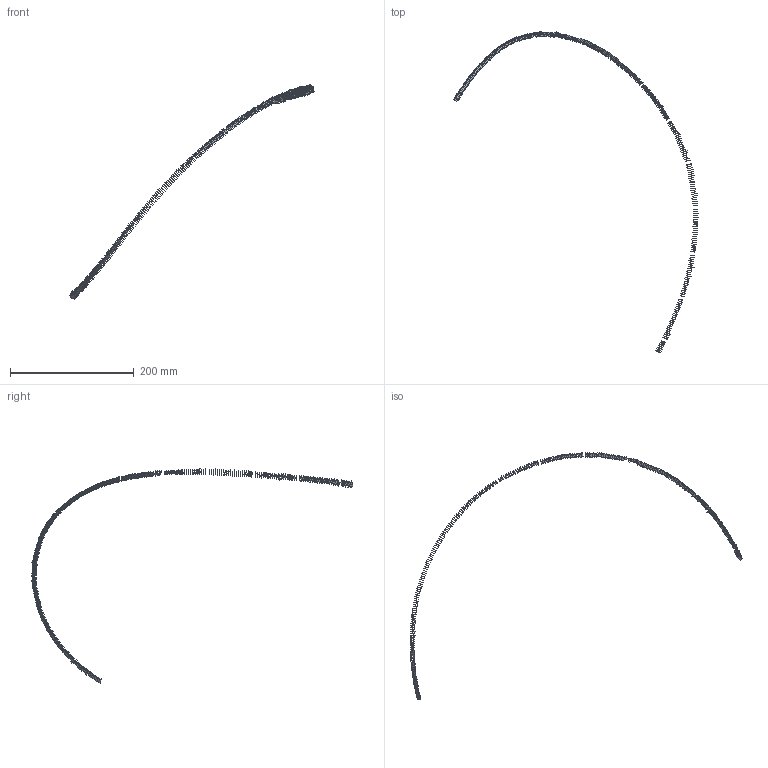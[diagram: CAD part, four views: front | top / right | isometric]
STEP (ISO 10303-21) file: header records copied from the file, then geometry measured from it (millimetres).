
FILE_DESCRIPTION(('FreeCAD Model'),'2;1');
FILE_NAME('Open CASCADE Shape Model','2022-05-22T07:50:31',('FreeCAD'),( 'FreeCAD'),'Open CASCADE STEP processor 7.5','FreeCAD','Unknown');
FILE_SCHEMA(('AUTOMOTIVE_DESIGN { 1 0 10303 214 1 1 1 1 }'));
Length unit declared in the file: millimetre
Products named in the file (299): Open CASCADE STEP translator 7.5 7; Open CASCADE STEP translator 7.5 7.1; Open CASCADE STEP translator 7.5 7.2; Open CASCADE STEP translator 7.5 7.3; Open CASCADE STEP translator 7.5 7.4; Open CASCADE STEP translator 7.5 7.5; Open CASCADE STEP translator 7.5 7.6; Open CASCADE STEP translator 7.5 7.7; Open CASCADE STEP translator 7.5 7.8; Open CASCADE STEP translator 7.5 7.9; Open CASCADE STEP translator 7.5 7.10; Open CASCADE STEP translator 7.5 7.11; Open CASCADE STEP translator 7.5 7.12; Open CASCADE STEP translator 7.5 7.13; Open CASCADE STEP translator 7.5 7.14; Open CASCADE STEP translator 7.5 7.15; Open CASCADE STEP translator 7.5 7.16; Open CASCADE STEP translator 7.5 7.17; Open CASCADE STEP translator 7.5 7.18; Open CASCADE STEP translator 7.5 7.19; Open CASCADE STEP translator 7.5 7.20; Open CASCADE STEP translator 7.5 7.21; Open CASCADE STEP translator 7.5 7.22; Open CASCADE STEP translator 7.5 7.23; Open CASCADE STEP translator 7.5 7.24; Open CASCADE STEP translator 7.5 7.25; Open CASCADE STEP translator 7.5 7.26; Open CASCADE STEP translator 7.5 7.27; Open CASCADE STEP translator 7.5 7.28; Open CASCADE STEP translator 7.5 7.29; Open CASCADE STEP translator 7.5 7.30; Open CASCADE STEP translator 7.5 7.31; Open CASCADE STEP translator 7.5 7.32; Open CASCADE STEP translator 7.5 7.33; Open CASCADE STEP translator 7.5 7.34; Open CASCADE STEP translator 7.5 7.35; Open CASCADE STEP translator 7.5 7.36; Open CASCADE STEP translator 7.5 7.37; Open CASCADE STEP translator 7.5 7.38; Open CASCADE STEP translator 7.5 7.39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
Assembly tree (298 placements, depth 2):
  Open CASCADE STEP translator 7.5 7
    Open CASCADE STEP translator 7.5 7.1
    Open CASCADE STEP translator 7.5 7.2
    Open CASCADE STEP translator 7.5 7.3
    Open CASCADE STEP translator 7.5 7.4
    Open CASCADE STEP translator 7.5 7.5
    Open CASCADE STEP translator 7.5 7.6
    Open CASCADE STEP translator 7.5 7.7
    Open CASCADE STEP translator 7.5 7.8
    Open CASCADE STEP translator 7.5 7.9
    Open CASCADE STEP translator 7.5 7.10
    Open CASCADE STEP translator 7.5 7.11
    Open CASCADE STEP translator 7.5 7.12
    Open CASCADE STEP translator 7.5 7.13
    Open CASCADE STEP translator 7.5 7.14
    Open CASCADE STEP translator 7.5 7.15
    Open CASCADE STEP translator 7.5 7.16
    Open CASCADE STEP translator 7.5 7.17
    Open CASCADE STEP translator 7.5 7.18
    Open CASCADE STEP translator 7.5 7.19
    Open CASCADE STEP translator 7.5 7.20
    Open CASCADE STEP translator 7.5 7.21
    Open CASCADE STEP translator 7.5 7.22
    Open CASCADE STEP translator 7.5 7.23
    Open CASCADE STEP translator 7.5 7.24
    Open CASCADE STEP translator 7.5 7.25
    Open CASCADE STEP translator 7.5 7.26
    Open CASCADE STEP translator 7.5 7.27
    Open CASCADE STEP translator 7.5 7.28
    Open CASCADE STEP translator 7.5 7.29
    Open CASCADE STEP translator 7.5 7.30
    Open CASCADE STEP translator 7.5 7.31
    Open CASCADE STEP translator 7.5 7.32
    Open CASCADE STEP translator 7.5 7.33
    Open CASCADE STEP translator 7.5 7.34
    Open CASCADE STEP translator 7.5 7.35
    Open CASCADE STEP translator 7.5 7.36
    Open CASCADE STEP translator 7.5 7.37
    Open CASCADE STEP translator 7.5 7.38
    Open CASCADE STEP translator 7.5 7.39
    Open CASCADE STEP translator 7.5 7.40
    Open CASCADE STEP translator 7.5 7.41
    Open CASCADE STEP translator 7.5 7.42
    Open CASCADE STEP translator 7.5 7.43
    Open CASCADE STEP translator 7.5 7.44
    Open CASCADE STEP translator 7.5 7.45
    Open CASCADE STEP translator 7.5 7.46
    Open CASCADE STEP translator 7.5 7.47
    Open CASCADE STEP translator 7.5 7.48
    Open CASCADE STEP translator 7.5 7.49
    Open CASCADE STEP translator 7.5 7.50
    Open CASCADE STEP translator 7.5 7.51
    Open CASCADE STEP translator 7.5 7.52
    Open CASCADE STEP translator 7.5 7.53
    Open CASCADE STEP translator 7.5 7.54
    Open CASCADE STEP translator 7.5 7.55
    Open CASCADE STEP translator 7.5 7.56
    Open CASCADE STEP translator 7.5 7.57
    Open CASCADE STEP translator 7.5 7.58
    Open CASCADE STEP translator 7.5 7.59
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Bounding box: 395.19 x 520.09 x 347.22 mm (x, y, z)
Surface area: 9779.7 mm2 (no closed solid volume)
Topology: 0 solids, 298 shells, 298 faces, 10816 edges, 10816 vertices
Faces by surface type: bspline 298
Entity records: 148968 total; most frequent: CARTESIAN_POINT 55571, B_SPLINE_CURVE_WITH_KNOTS 21632, ORIENTED_EDGE 10816, EDGE_CURVE 10816, VERTEX_POINT 10816, SURFACE_CURVE 10816, PCURVE 10816, DEFINITIONAL_REPRESENTATION 10816
